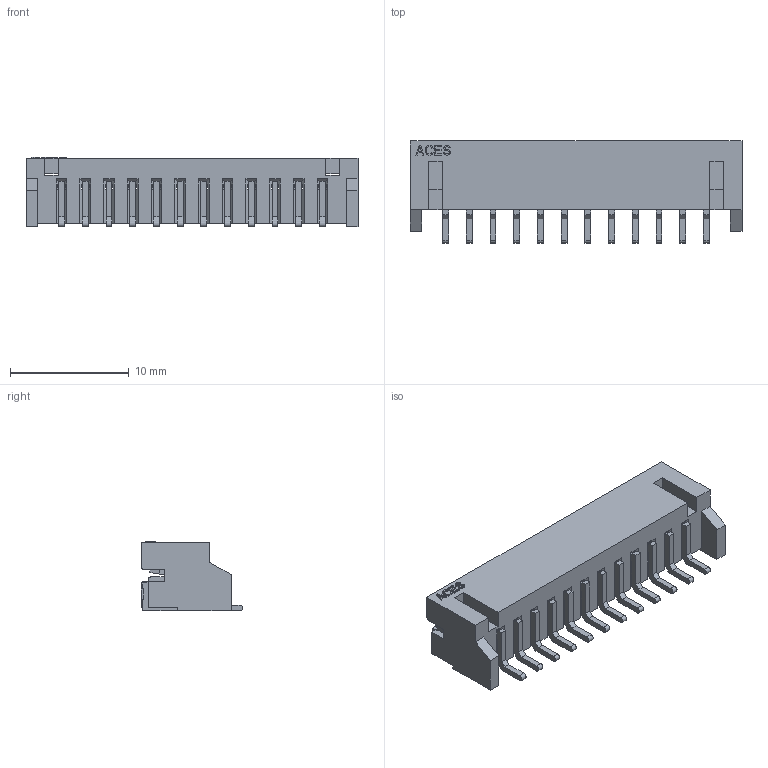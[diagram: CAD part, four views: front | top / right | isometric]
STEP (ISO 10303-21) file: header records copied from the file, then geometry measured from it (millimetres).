
FILE_DESCRIPTION((''),'2;1');
FILE_NAME('12','2010-03-05T',('snow'),(''),'PRO/ENGINEER BY PARAMETRIC TECHNOLOGY CORPORATION, 2007450','PRO/ENGINEER BY PARAMETRIC TECHNOLOGY CORPORATION, 2007450','');
FILE_SCHEMA(('CONFIG_CONTROL_DESIGN'));
Length unit declared in the file: millimetre
Products named in the file (1): 12
Bounding box: 28 x 8.6 x 5.9 mm (x, y, z)
Volume: 462.3 mm3; surface area: 1395.3 mm2
Topology: 1 solids, 13 shells, 962 faces, 2845 edges, 1832 vertices
Faces by surface type: plane 918, cylinder 44
Entity records: 31501 total; most frequent: ORIENTED_EDGE 5690, CARTESIAN_POINT 5657, DIRECTION 4873, EDGE_CURVE 2845, VECTOR 2733, LINE 2733, VERTEX_POINT 1832, AXIS2_PLACEMENT_3D 1070
